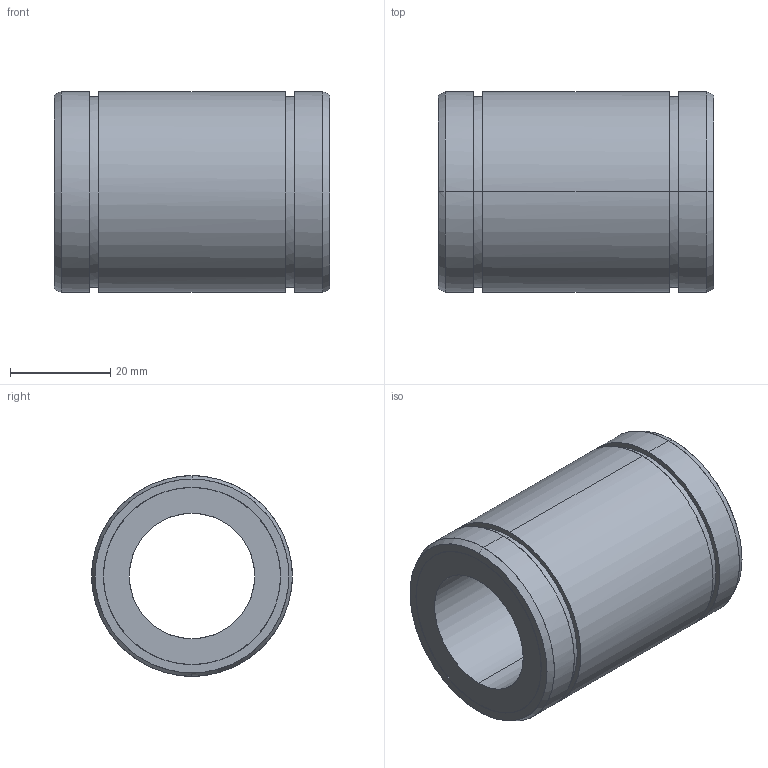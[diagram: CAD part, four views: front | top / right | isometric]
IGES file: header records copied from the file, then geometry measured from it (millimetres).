
Global section: file name: No Iges File Name specified; native system: AutoDesk Inventor R10; preprocessor: AutoDesk Inventor Iges Exporter R10; author: No Author specified; organization: No Organization specified; date: 20101208.095007; units: millimetre
Bounding box: 55 x 40 x 40 mm (x, y, z)
Surface area: 13104.8 mm2 (no closed solid volume)
Topology: 0 solids, 0 shells, 28 faces, 184 edges, 184 vertices
Faces by surface type: bspline 28
